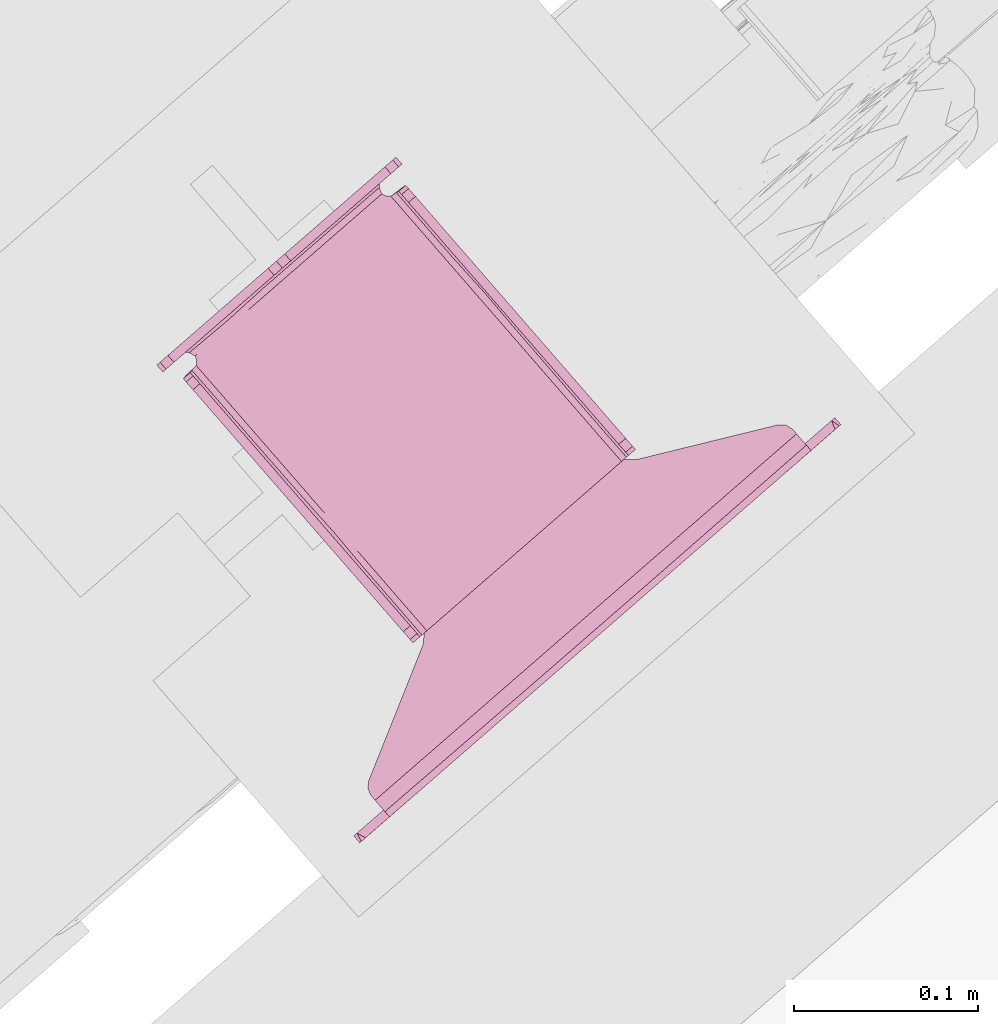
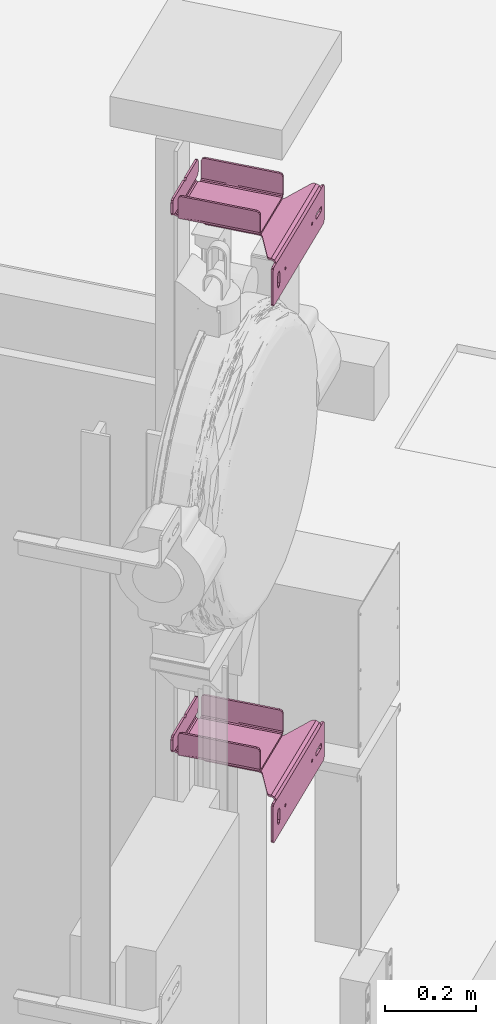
# One storey, part 116 of 124: 2 transport elements.
"""IFC2X3 building model written with IfcOpenShell, lengths in millimetres."""

from ifc_helpers import new_model, entity, si_unit, converted_unit, derived_unit, money_unit, direction, frame, origin_with_axes, place, context, subcontext, project, spatial, faceted_brep, source, transform, mapped, type_object, element, save


model = new_model("IFC2X3")

# Units and contexts
model_context = context("Model", 3, precision=1e-05, world=origin_with_axes(), true_north=direction((0.0, 1.0)))
body_context = subcontext(model_context, "Body", "Model", "MODEL_VIEW")
ifc_project = project(units=[si_unit("LENGTHUNIT", "METRE", prefix="MILLI"), si_unit("AREAUNIT", "SQUARE_METRE"), si_unit("VOLUMEUNIT", "CUBIC_METRE"), converted_unit("PLANEANGLEUNIT", "DEGREE", entity("IfcPlaneAngleMeasure", 0.0174532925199), si_unit("PLANEANGLEUNIT", "RADIAN"), dimensions=[0, 0, 0, 0, 0, 0, 0]), si_unit("SOLIDANGLEUNIT", "STERADIAN"), money_unit("EUR"), converted_unit("TIMEUNIT", "Year", entity("IfcTimeMeasure", 31556926.0), si_unit("TIMEUNIT", "SECOND"), dimensions=[0, 0, 1, 0, 0, 0, 0]), si_unit("MASSUNIT", "GRAM", prefix="KILO"), si_unit("THERMODYNAMICTEMPERATUREUNIT", "DEGREE_CELSIUS"), si_unit("LUMINOUSINTENSITYUNIT", "LUMEN"), si_unit("ENERGYUNIT", "JOULE", prefix="MEGA"), derived_unit("THERMALCONDUCTANCEUNIT", [(si_unit("POWERUNIT", "WATT"), 1), (si_unit("LENGTHUNIT", "METRE"), -1), (si_unit("THERMODYNAMICTEMPERATUREUNIT", "KELVIN"), -1)]), derived_unit("SPECIFICHEATCAPACITYUNIT", [(si_unit("ENERGYUNIT", "JOULE"), 1), (si_unit("MASSUNIT", "GRAM", prefix="KILO"), -1), (si_unit("THERMODYNAMICTEMPERATUREUNIT", "KELVIN"), -1)]), derived_unit("MASSDENSITYUNIT", [(si_unit("MASSUNIT", "GRAM", prefix="KILO"), 1), (si_unit("VOLUMEUNIT", "CUBIC_METRE"), -1)])], contexts=[model_context])

# Site, building, storey
site_placement = place(None, origin_with_axes())
site = spatial("IfcSite", under=ifc_project, at=site_placement, Name="Site", CompositionType="ELEMENT")
building_placement = place(site_placement, origin_with_axes())
building = spatial("IfcBuilding", under=site, at=building_placement, Name="Building", CompositionType="ELEMENT")
storey_placement = place(building_placement, frame((0.0, 0.0, -1615.0), z_axis=(0.0, 0.0, 1.0), x_axis=(1.0, 0.0, 0.0)))
storey = spatial("IfcBuildingStorey", under=building, at=storey_placement, Name="0  korrus", CompositionType="ELEMENT", Elevation=-1615.0)

# Transport elements
transport_element_type_1 = type_object("IfcTransportElementType", Name="KONE_Combination_Bracket_KM927051G01_L205-370_LH:KONE_Combination_Bracket_KM927051G01_L205-370_LH", PredefinedType="NOTDEFINED")
shared_shape = source(origin_with_axes(), body_context, "Body", "Brep", [
    faceted_brep([(226.391689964, 263.0, 124.081378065), (226.391689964, 268.0, 124.081378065), (232.048544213, 268.0, 126.424523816), (232.048544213, 263.0, 126.424523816), (221.391689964, 263.0, 124.081378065), (221.391689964, 268.0, 124.081378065), (70.3916899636, 268.0, 124.081378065), (64.7348357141, 268.0, 126.424523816), (62.3916899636, 268.0, 132.081378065), (62.3916899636, 268.0, 160.081378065), (64.7348357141, 268.0, 165.738232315), (70.3916899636, 268.0, 168.081378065), (142.391689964, 268.0, 168.081378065), (148.391689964, 268.0, 162.081378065), (154.391689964, 268.0, 168.081378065), (226.391689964, 268.0, 168.081378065), (232.048544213, 268.0, 165.738232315), (234.391689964, 268.0, 160.081378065), (234.391689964, 268.0, 132.081378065), (219.659639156, 268.0, 123.825940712), (218.075065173, 268.0, 123.081378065), (162.866367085, 268.0, 123.081378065), (78.708314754, 268.0, 123.081378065), (77.1237407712, 268.0, 123.825940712), (75.3916899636, 268.0, 124.081378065), (234.391689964, 263.0, 132.081378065), (148.391689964, 263.0, 162.081378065), (142.391689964, 263.0, 168.081378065), (70.3916899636, 263.0, 168.081378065), (64.7348357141, 263.0, 165.738232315), (62.3916899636, 263.0, 160.081378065), (62.3916899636, 263.0, 132.081378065), (64.7348357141, 263.0, 126.424523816), (70.3916899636, 263.0, 124.081378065), (75.3916899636, 263.0, 124.081378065), (77.1237407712, 263.0, 123.825940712), (78.708314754, 263.0, 123.081378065), (117.746759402, 263.0, 123.081378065), (148.391689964, 263.0, 123.081378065), (179.036620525, 263.0, 123.081378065), (218.075065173, 263.0, 123.081378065), (219.659639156, 263.0, 123.825940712), (234.391689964, 263.0, 160.081378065), (232.048544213, 263.0, 165.738232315), (226.391689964, 263.0, 168.081378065), (154.391689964, 263.0, 168.081378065), (218.075065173, 264.422858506, 123.081378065), (218.075065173, 265.845717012, 123.081378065), (217.703937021, 267.749594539, 120.85755111), (79.0797029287, 267.749226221, 120.855936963), (78.708314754, 265.84568573, 123.081378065), (78.708314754, 264.422842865, 123.081378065), (106.600087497, 261.039236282, 119.111108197), (133.069221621, 261.599756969, 119.611255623), (167.910915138, 261.580662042, 119.591555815), (216.775423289, 261.535848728, 119.546159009), (216.955931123, 262.880428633, 119.164874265), (217.460292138, 264.642341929, 120.493695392), (217.367560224, 265.729464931, 119.559537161), (217.332566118, 267.010189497, 118.743580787), (79.2653304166, 266.244760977, 120.196452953), (79.4510926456, 267.00948187, 118.742111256), (79.3408235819, 264.89248632, 120.310720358), (79.6161585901, 263.338368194, 119.818731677), (80.0079137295, 261.535803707, 119.546113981), (158.723504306, 264.856323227, 115.801897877), (120.346214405, 258.0, 118.081378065), (80.747765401, 259.523295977, 118.712416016), (81.3077697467, 258.0, 118.081378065), (159.384659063, 258.0, 118.081378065), (176.437165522, 258.0, 118.081378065), (216.221761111, 260.849109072, 117.19656657), (216.77268185, 263.303970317, 117.760754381), (216.961157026, 265.818917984, 116.847236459), (79.8224825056, 265.817871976, 116.845924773), (80.0080506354, 263.312263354, 117.769046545), (80.3778398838, 261.333528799, 117.787138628), (81.3077697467, 258.0, 116.6585352), (215.475610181, 258.0, 118.081378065), (216.035614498, 259.523365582, 118.712456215), (216.589738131, 264.235458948, 115.2635106), (80.1938735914, 264.234158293, 115.262473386), (80.318762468, 255.575973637, 118.081378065), (78.3916899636, 253.803847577, 118.081378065), (78.3916899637, 214.765403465, 118.081378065), (78.3916899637, 175.726959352, 118.081378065), (78.3916899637, 147.545219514, 118.081378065), (78.3916899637, 119.363479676, 118.081378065), (78.3916899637, 102.038444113, 118.081378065), (78.3916899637, 63.0, 118.081378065), (218.391689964, 63.0, 118.081378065), (218.391689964, 102.038444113, 118.081378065), (218.391689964, 130.220183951, 118.081378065), (218.391689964, 158.401923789, 118.081378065), (218.391689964, 186.583663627, 118.081378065), (218.391689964, 214.765403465, 118.081378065), (218.391689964, 253.803847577, 118.081378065), (216.464617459, 255.575973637, 118.081378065), (81.3077697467, 258.0, 115.235692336), (81.3077697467, 258.0, 113.081378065), (80.318762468, 255.575973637, 113.081378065), (215.475610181, 258.0, 116.658519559), (215.475610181, 258.0, 115.235661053), (216.218390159, 262.339274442, 114.071899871), (80.5652646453, 262.337773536, 114.071177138), (78.3916899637, 253.803847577, 113.081378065), (78.3916899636, 253.803847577, 115.286270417), (78.3916899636, 253.803847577, 116.683824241), (74.9040391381, 224.325981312, 119.498600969), (74.912107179, 195.246183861, 119.490764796), (75.0247218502, 161.636091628, 119.384957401), (75.3733941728, 136.096414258, 119.095165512), (74.9234654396, 110.700959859, 119.479792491), (74.8561560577, 63.0, 119.545844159), (78.3916899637, 63.0, 115.581378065), (221.960404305, 92.278927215, 119.579338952), (221.994850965, 121.557663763, 119.61479029), (222.087500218, 155.067273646, 119.713739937), (222.389349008, 180.433874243, 120.078259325), (221.914531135, 205.50000201, 119.533196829), (221.92748804, 253.401866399, 119.54610835), (219.950700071, 253.626605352, 118.727209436), (218.391689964, 253.803847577, 116.683823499), (218.391689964, 253.803847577, 115.286268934), (218.391689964, 253.803847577, 113.081378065), (216.464617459, 255.575973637, 113.081378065), (215.475610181, 258.0, 113.081378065), (80.9366545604, 260.223829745, 113.331784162), (218.391689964, 198.595149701, 113.081378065), (218.391689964, 143.386451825, 113.081378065), (218.391689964, 63.0, 113.081378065), (78.3916899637, 63.0, 113.081378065), (78.3916899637, 143.386451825, 113.081378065), (78.3916899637, 198.595149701, 113.081378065), (136.51646853, 258.0, 113.081378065), (215.847005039, 260.225429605, 113.33214922), (76.1662538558, 253.688998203, 113.332150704), (75.5474605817, 253.573928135, 117.182621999), (76.8325408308, 253.626605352, 118.727284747), (74.855823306, 253.401894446, 119.546176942), (218.391689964, 63.0, 115.581378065), (221.92722387, 63.0, 119.545844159), (222.322349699, 253.456351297, 118.2110199), (221.004082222, 253.61189367, 116.446378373), (221.874411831, 253.587493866, 115.340416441), (220.615484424, 253.689082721, 113.331776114), (225.482173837, 170.186956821, 116.029779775), (226.238372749, 116.578488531, 116.882219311), (72.2295784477, 116.60942872, 115.20556816), (71.3012060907, 170.186956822, 116.029779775), (74.0524048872, 253.574151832, 114.071904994), (73.0861150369, 253.402741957, 117.759203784), (73.3916899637, 213.961555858, 123.081378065), (73.3916899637, 253.0, 123.081378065), (73.3916899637, 185.980777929, 123.081378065), (73.3916899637, 158.0, 123.081378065), (73.3916899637, 134.25, 123.081378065), (73.3916899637, 110.5, 123.081378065), (71.3206221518, 63.0, 116.010310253), (223.391689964, 102.038444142, 123.081378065), (223.391689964, 63.0, 123.081378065), (223.391689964, 141.076888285, 123.081378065), (223.391689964, 169.057666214, 123.081378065), (223.391689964, 197.038444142, 123.081378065), (223.391689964, 213.961555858, 123.081378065), (224.290495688, 253.229916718, 120.237161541), (222.72945989, 253.574240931, 114.0711754), (224.625814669, 253.459387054, 115.262446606), (225.462757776, 63.0, 116.010310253), (72.1562222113, 253.459317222, 115.263517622), (73.5212229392, 253.347488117, 119.150753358), (73.3916899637, 63.0, 123.081378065), (68.3916899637, 63.0, 123.081378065), (228.391689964, 63.0, 123.081378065), (223.391689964, 253.0, 123.081378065), (222.745907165, 253.177242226, 121.522155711), (223.713889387, 253.40110386, 117.775807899), (226.209550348, 253.344530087, 116.845910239), (228.391689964, 142.582604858, 123.081378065), (68.3916899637, 142.582604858, 123.081378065), (70.5727586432, 253.344460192, 116.847253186), (71.7566759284, 253.191952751, 120.468993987), (73.3916899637, 253.0, 170.081378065), (73.3916899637, 250.656854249, 175.738232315), (73.3916899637, 245.0, 178.081378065), (73.3916899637, 71.0, 178.081378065), (73.3916899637, 65.3431457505, 175.738232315), (73.3916899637, 63.0, 170.081378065), (71.9941361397, 253.0, 123.081378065), (223.391689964, 71.0, 178.081378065), (223.391689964, 245.0, 178.081378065), (223.391689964, 250.65685425, 175.738232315), (223.391689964, 253.0, 170.081378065), (223.391689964, 63.0, 170.081378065), (223.391689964, 65.3431457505, 175.738232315), (228.391689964, 63.0, 170.081378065), (224.789244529, 253.0, 123.081378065), (226.186799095, 253.0, 123.081378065), (228.391689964, 197.791302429, 123.081378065), (68.3916899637, 197.791302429, 123.081378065), (70.6507336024, 253.216353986, 119.598648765), (68.3916899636, 253.0, 123.081378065), (68.3916899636, 253.0, 170.081378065), (70.5965823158, 253.0, 123.081378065), (68.3916899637, 250.656854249, 175.738232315), (68.3916899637, 245.0, 178.081378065), (68.3916899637, 71.0, 178.081378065), (68.3916899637, 65.3431457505, 175.738232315), (68.3916899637, 63.0, 170.081378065), (228.391689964, 71.0, 178.081378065), (228.391689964, 245.0, 178.081378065), (228.391689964, 250.65685425, 175.738232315), (228.391689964, 253.0, 170.081378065), (228.391689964, 253.0, 123.081378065), (228.391689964, 65.3431457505, 175.738232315), (227.401163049, 253.22969561, 118.742093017), (69.381487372, 253.229606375, 118.743607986), (228.140917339, 253.114849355, 120.855942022), (68.642087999, 253.114764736, 120.857583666)], [[[0, 1, 2, 3]], [[1, 0, 4, 5]], [[6, 7, 8, 9, 10, 11, 12, 13, 14, 15, 16, 17, 18, 2, 1, 5, 19, 20, 21, 22, 23, 24]], [[2, 18, 25, 3]], [[26, 27, 28, 29, 30, 31, 32, 33, 34, 35, 36, 37, 38, 39, 40, 41, 4, 0, 3, 25, 42, 43, 44, 45]], [[4, 41, 19, 5]], [[7, 6, 33, 32]], [[31, 8, 7, 32]], [[31, 30, 9, 8]], [[10, 9, 30, 29]], [[28, 11, 10, 29]], [[11, 28, 27, 12]], [[27, 26, 13, 12]], [[26, 45, 14, 13]], [[14, 45, 44, 15]], [[16, 15, 44, 43]], [[42, 17, 16, 43]], [[17, 42, 25, 18]], [[41, 40, 46, 47, 20, 19]], [[21, 20, 48]], [[49, 22, 21]], [[23, 22, 50, 51, 36, 35]], [[34, 24, 23, 35]], [[24, 34, 33, 6]], [[52, 37, 36]], [[53, 38, 37]], [[54, 39, 38]], [[39, 55, 40]], [[46, 40, 56]], [[46, 57, 47]], [[20, 47, 58]], [[48, 20, 58]], [[21, 48, 59]], [[49, 60, 22]], [[49, 21, 61]], [[22, 60, 50]], [[51, 50, 62]], [[51, 63, 36]], [[37, 52, 53]], [[36, 64, 52]], [[38, 53, 54]], [[55, 39, 54]], [[55, 56, 40]], [[56, 57, 46]], [[47, 57, 58]], [[48, 58, 59]], [[59, 65, 21]], [[60, 49, 61]], [[61, 21, 65]], [[50, 60, 62]], [[63, 51, 62]], [[64, 36, 63]], [[66, 53, 52]], [[52, 64, 67, 68]], [[53, 69, 54]], [[55, 54, 70]], [[71, 56, 55]], [[72, 57, 56]], [[58, 57, 72]], [[73, 59, 58]], [[59, 73, 65]], [[60, 61, 74]], [[65, 74, 61]], [[60, 75, 62]], [[75, 63, 62]], [[63, 76, 64]], [[66, 69, 53]], [[66, 52, 68]], [[76, 67, 64]], [[77, 68, 67]], [[70, 54, 69]], [[70, 78, 79, 55]], [[71, 72, 56]], [[55, 79, 71]], [[58, 72, 80]], [[80, 73, 58]], [[65, 73, 80]], [[75, 60, 74]], [[65, 81, 74]], [[76, 63, 75]], [[82, 83, 84, 85, 86, 87, 88, 89, 90, 91, 92, 93, 94, 95, 96, 97, 78, 70, 69, 66, 68]], [[67, 76, 77]], [[82, 68, 77, 98, 99, 100]], [[101, 79, 78]], [[102, 72, 71]], [[79, 101, 71]], [[103, 80, 72]], [[103, 65, 80]], [[75, 74, 81]], [[65, 104, 81]], [[76, 75, 98]], [[100, 105, 106, 107, 83, 82]], [[108, 84, 83]], [[109, 85, 84]], [[86, 85, 110]], [[86, 111, 87]], [[87, 112, 88]], [[113, 89, 88]], [[90, 89, 114]], [[115, 91, 90]], [[92, 91, 116]], [[117, 93, 92]], [[94, 93, 118]], [[119, 95, 94]], [[95, 120, 121, 96]], [[97, 96, 122, 123, 124, 125]], [[125, 126, 102, 101, 78, 97]], [[98, 77, 76]], [[127, 99, 98]], [[124, 128, 129, 130, 131, 132, 133, 105, 100, 99, 134, 126, 125]], [[72, 102, 103]], [[102, 71, 101]], [[135, 65, 103]], [[75, 81, 104]], [[134, 104, 65]], [[75, 104, 98]], [[105, 136, 106]], [[106, 137, 107]], [[107, 138, 83]], [[108, 109, 84]], [[108, 83, 138, 139]], [[110, 85, 109]], [[86, 110, 111]], [[87, 111, 112]], [[88, 112, 113]], [[113, 114, 89]], [[90, 114, 140]], [[115, 116, 91]], [[141, 115, 90]], [[117, 92, 116]], [[93, 117, 118]], [[118, 119, 94]], [[119, 120, 95]], [[120, 142, 121]], [[122, 96, 121]], [[143, 123, 122]], [[124, 123, 144]], [[135, 102, 126]], [[127, 134, 99]], [[98, 104, 127]], [[124, 145, 128]], [[128, 146, 129]], [[147, 130, 129]], [[130, 114, 131]], [[131, 148, 132]], [[149, 133, 132]], [[136, 105, 133]], [[126, 134, 135]], [[103, 102, 135]], [[134, 65, 135]], [[134, 127, 104]], [[150, 106, 136]], [[106, 151, 137]], [[138, 107, 137]], [[109, 108, 152]], [[139, 138, 137]], [[108, 139, 153]], [[109, 154, 110]], [[110, 155, 111]], [[112, 111, 156]], [[157, 113, 112]], [[114, 113, 158]], [[114, 130, 140]], [[140, 141, 90]], [[116, 115, 159]], [[115, 141, 160]], [[116, 161, 117]], [[118, 117, 162]], [[119, 118, 163]], [[120, 119, 164]], [[165, 142, 120]], [[121, 142, 143]], [[143, 122, 121]], [[123, 143, 144]], [[124, 144, 145]], [[166, 128, 145]], [[167, 146, 128]], [[129, 146, 147]], [[147, 168, 130]], [[131, 114, 158]], [[131, 158, 148]], [[148, 149, 132]], [[133, 149, 169]], [[136, 133, 150]], [[150, 151, 106]], [[170, 137, 151]], [[108, 153, 152]], [[109, 152, 154]], [[137, 170, 139]], [[170, 153, 139]], [[155, 110, 154]], [[156, 111, 155]], [[156, 157, 112]], [[171, 113, 157]], [[113, 172, 158]], [[140, 130, 168]], [[141, 140, 168]], [[115, 160, 159]], [[116, 159, 161]], [[173, 160, 141]], [[162, 117, 161]], [[163, 118, 162]], [[119, 163, 164]], [[164, 174, 175, 120]], [[142, 165, 176]], [[120, 175, 165]], [[142, 176, 143]], [[144, 143, 176]], [[145, 144, 166]], [[128, 166, 167]], [[167, 177, 146]], [[147, 146, 178]], [[147, 173, 168]], [[148, 158, 172]], [[148, 179, 149]], [[149, 180, 169]], [[133, 169, 150]], [[169, 151, 150]], [[151, 181, 170]], [[171, 157, 156, 155, 154, 152, 153, 182, 183, 184, 185, 186, 187]], [[170, 188, 153]], [[172, 113, 171]], [[173, 141, 168]], [[189, 190, 191, 192, 174, 164, 163, 162, 161, 159, 160, 193, 194]], [[173, 195, 160]], [[196, 175, 174]], [[197, 176, 165]], [[175, 196, 165]], [[144, 176, 177]], [[167, 166, 144]], [[167, 144, 177]], [[177, 198, 146]], [[198, 178, 146]], [[173, 147, 178]], [[172, 179, 148]], [[199, 149, 179]], [[149, 199, 180]], [[180, 200, 169]], [[200, 151, 169]], [[200, 181, 151]], [[188, 170, 181]], [[201, 202, 182, 153, 188, 203]], [[202, 204, 183, 182]], [[183, 204, 205, 184]], [[205, 206, 185, 184]], [[206, 207, 186, 185]], [[186, 207, 208, 187]], [[171, 187, 208]], [[208, 172, 171]], [[190, 189, 209, 210]], [[210, 211, 191, 190]], [[191, 211, 212, 192]], [[212, 213, 197, 196, 174, 192]], [[193, 160, 195]], [[195, 214, 194, 193]], [[194, 214, 209, 189]], [[209, 214, 195, 173, 178, 198, 213, 212, 211, 210]], [[215, 176, 197]], [[197, 165, 196]], [[177, 176, 215]], [[215, 198, 177]], [[206, 205, 204, 202, 201, 199, 179, 172, 208, 207]], [[199, 216, 180]], [[180, 216, 200]], [[203, 181, 200]], [[181, 203, 188]], [[201, 203, 200]], [[213, 217, 197]], [[217, 213, 198]], [[215, 197, 217]], [[198, 215, 217]], [[218, 199, 201]], [[216, 199, 218]], [[218, 200, 216]], [[201, 200, 218]]]),
    faceted_brep([(58.3916899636, 2.5, 43.0813780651), (58.3916899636, 0.0, 43.0813780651), (63.3916899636, 0.0, 48.0813780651), (63.3916899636, 5.0, 48.0813780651), (58.3916899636, 5.0, 43.0813780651), (53.3916899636, 5.0, 48.0813780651), (53.3916899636, 0.0, 48.0813780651), (233.391689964, 0.0, 48.0813780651), (58.3916899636, 0.0, 53.0813780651), (58.3916899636, 2.5, 53.0813780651), (58.3916899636, 5.0, 53.0813780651), (238.391689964, 5.0, 43.0813780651), (20.3916899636, 5.0, 34.0813780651), (20.3916899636, 0.0, 34.0813780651), (238.391689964, 0.0, 43.0813780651), (238.391689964, 5.0, 53.0813780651), (233.391689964, 5.0, 48.0813780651), (313.391689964, 5.0, -1.91862193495), (16.8916899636, 5.0, 28.0192002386), (20.3916899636, 5.0, 62.081378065), (20.3916899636, 0.0, 62.081378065), (16.8916899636, 0.0, 28.0192002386), (-16.6083100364, 0.0, -1.91862193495), (238.391689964, 2.5, 43.0813780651), (238.391689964, 0.0, 53.0813780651), (299.991689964, 5.0, 102.081378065), (269.391689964, 5.0, 41.0813780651), (-16.6083100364, 5.0, -1.91862193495), (16.8916899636, 5.0, 68.1435558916), (16.8916899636, 0.0, 68.1435558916), (313.391689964, 0.0, -1.91862193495), (243.391689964, 0.0, 48.0813780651), (243.391689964, 5.0, 48.0813780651), (238.391689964, 2.5, 53.0813780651), (-20.4812933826, 0.0, 101.081378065), (257.227217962, 5.0, 102.081378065), (269.391689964, 5.0, 55.0813780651), (263.329512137, 5.0, 44.581378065), (297.391689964, 5.0, 41.0813780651), (9.89168996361, 0.0, 28.0192002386), (9.89168996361, 5.0, 28.0192002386), (-3.20831003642, 5.0, 102.081378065), (269.391689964, 0.0, 41.0813780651), (263.329512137, 0.0, 44.581378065), (-9.92673209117, 0.0, 101.081378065), (214.46274596, 5.0, 102.081378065), (299.991689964, 6.75735931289, 106.324018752), (240.709455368, 6.75735931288, 106.324018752), (263.329512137, 5.0, 51.5813780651), (297.391689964, 5.0, 55.0813780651), (321.391689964, 5.0, 6.08137806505), (297.391689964, 0.0, 41.0813780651), (319.048544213, 5.0, 0.42452381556), (319.048544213, 0.0, 0.42452381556), (-22.2651642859, 5.0, 0.42452381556), (-22.2651642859, 0.0, 0.42452381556), (6.39168996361, 0.0, 34.0813780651), (6.39168996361, 5.0, 34.0813780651), (-24.6083100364, 5.0, 6.08137806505), (9.89168996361, 0.0, 68.1435558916), (9.89168996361, 5.0, 68.1435558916), (39.5561619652, 5.0, 102.081378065), (-24.6083100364, 0.0, 6.08137806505), (263.329512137, 0.0, 51.5813780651), (0.62782920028, 0.0, 101.081378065), (-18.6080463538, 0.02321277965, 101.827412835), (167.84957759, 5.0, 102.081378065), (299.991689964, 11.0, 108.081378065), (299.991689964, 15.1311773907, 108.081378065), (299.991689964, 15.1311773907, 113.081378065), (299.991689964, 12.0, 113.081378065), (299.991689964, 3.87596159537, 109.913138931), (299.991689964, 0.0417392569, 102.081378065), (203.889808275, 6.9065029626, 106.468094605), (224.191690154, 11.0, 108.081378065), (257.22721836, 11.0, 108.081378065), (269.391689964, 0.0, 55.0813780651), (297.391689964, 0.0, 55.0813780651), (321.391689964, 5.0, 94.0813780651), (303.45386779, 5.0, 44.581378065), (303.45386779, 0.0, 44.581378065), (321.391689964, 0.0, 6.08137806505), (6.39168996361, 5.0, 62.081378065), (6.39168996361, 0.0, 62.081378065), (-24.6083100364, 5.0, 94.0813780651), (28.8650501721, 7.07950810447, 106.623375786), (82.3206339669, 5.0, 102.081378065), (-24.6083100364, 0.0, 94.0813780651), (21.7369517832, 0.0, 101.081378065), (-3.20831003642, 0.0417392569, 102.081378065), (-16.6083100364, 0.0417392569, 102.081378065), (-22.2651642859, 5.0, 99.7382323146), (125.085105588, 5.0, 102.081378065), (186.291689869, 11.0, 108.081378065), (148.391689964, 11.0, 108.081378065), (115.356162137, 11.0, 108.081378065), (82.320633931, 11.0, 108.081378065), (39.5561619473, 11.0, 108.081378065), (-3.20831003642, 11.0, 108.081378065), (-3.20831003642, 15.1311773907, 108.081378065), (-2.03775935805, 19.2975453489, 108.081378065), (1.1313454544, 22.2446770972, 108.081378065), (71.8822067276, 58.6504600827, 108.081378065), (76.6358639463, 63.0711577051, 108.081378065), (78.3916899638, 69.3207096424, 108.081378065), (78.3916899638, 192.0, 108.081378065), (80.7348357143, 197.656854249, 108.081378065), (86.3916899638, 200.0, 108.081378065), (210.391689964, 200.0, 108.081378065), (216.048544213, 197.656854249, 108.081378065), (218.391689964, 192.0, 108.081378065), (218.391689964, 69.3207096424, 108.081378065), (220.147515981, 63.0711577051, 108.081378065), (224.9011732, 58.6504600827, 108.081378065), (295.652034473, 22.2446770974, 108.081378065), (298.821139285, 19.297545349, 108.081378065), (298.821139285, 19.297545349, 113.081378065), (-3.20831003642, 15.1311773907, 113.081378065), (-3.20831003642, 12.0, 113.081378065), (57.2697867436, 12.0, 113.081378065), (148.391690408, 12.0, 113.081378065), (239.513593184, 12.0, 113.081378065), (295.652034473, 22.2446770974, 113.081378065), (224.9011732, 58.6504600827, 113.081378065), (220.147515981, 63.0711577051, 113.081378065), (218.391689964, 69.3207096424, 113.081378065), (218.391689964, 192.0, 113.081378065), (216.048544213, 197.656854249, 113.081378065), (210.391689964, 200.0, 113.081378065), (86.3916899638, 200.0, 113.081378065), (80.7348357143, 197.656854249, 113.081378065), (78.3916899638, 192.0, 113.081378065), (78.3916899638, 69.3207096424, 113.081378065), (76.6358639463, 63.0711577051, 113.081378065), (71.8822067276, 58.6504600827, 113.081378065), (1.1313454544, 22.2446770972, 113.081378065), (-2.03775935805, 19.2975453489, 113.081378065), (275.046427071, 0.0, 101.081378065), (313.391689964, 0.0417392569, 102.081378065), (313.391689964, 5.0, 102.081378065), (317.26467331, 0.0, 101.081378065), (303.45386779, 0.0, 51.5813780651), (303.45386779, 5.0, 51.5813780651), (321.391689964, 0.0, 94.0813780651), (-16.6083100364, 5.0, 102.081378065), (60.9384018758, 6.75735931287, 106.324018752), (-3.20831003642, 6.75735931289, 106.324018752), (-23.4997491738, 0.0, 98.1443900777), (63.9551980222, 0.0, 101.081378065), (-3.20831003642, 3.87596159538, 109.913138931), (131.407601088, 6.94541120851, 106.504081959), (167.341692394, 7.03140000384, 106.581401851), (96.2257561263, 6.651377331, 106.2153206), (106.17345035, 3.51471859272, 109.566659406), (190.609939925, 3.51471863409, 109.566659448), (232.828181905, 0.0, 101.081378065), (296.155549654, 0.0, 101.081378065), (306.710112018, 0.0, 101.081378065), (315.39199539, 0.02320362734, 101.82726589), (319.048544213, 5.0, 99.7382323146), (320.283129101, 0.0, 98.1443900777), (148.391689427, 0.0, 101.081378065)], [[[0, 1, 2, 3, 4]], [[0, 4, 5, 6, 1]], [[2, 1, 7]], [[3, 2, 8, 9, 10]], [[3, 11, 4]], [[4, 12, 5]], [[5, 10, 9, 8, 6]], [[1, 6, 13]], [[7, 1, 14]], [[8, 2, 7]], [[10, 15, 3]], [[16, 11, 3]], [[11, 17, 4]], [[18, 12, 4]], [[19, 5, 12]], [[5, 19, 10]], [[6, 8, 20]], [[20, 13, 6]], [[13, 21, 1]], [[1, 22, 14]], [[23, 11, 16, 7, 14]], [[7, 24, 8]], [[15, 10, 25]], [[15, 16, 3]], [[11, 26, 17]], [[27, 4, 17]], [[21, 13, 12, 18]], [[18, 4, 27]], [[13, 20, 19, 12]], [[10, 19, 28]], [[29, 20, 8]], [[1, 21, 22]], [[30, 14, 22]], [[23, 14, 31, 32, 11]], [[16, 15, 33, 24, 7]], [[8, 24, 34]], [[10, 35, 25]], [[36, 15, 25]], [[11, 37, 26]], [[38, 17, 26]], [[17, 30, 22, 27]], [[39, 21, 18, 40]], [[40, 18, 27]], [[20, 29, 28, 19]], [[28, 41, 10]], [[29, 8, 34]], [[39, 22, 21]], [[42, 14, 30]], [[43, 31, 14]], [[32, 31, 24, 33, 15]], [[37, 11, 32]], [[24, 44, 34]], [[10, 45, 35]], [[46, 25, 35, 45, 47]], [[48, 15, 36]], [[49, 36, 25]], [[43, 42, 26, 37]], [[50, 17, 38]], [[26, 42, 51, 38]], [[17, 52, 53, 30]], [[54, 27, 22, 55]], [[56, 39, 40, 57]], [[27, 58, 40]], [[29, 59, 60, 28]], [[28, 60, 41]], [[10, 41, 61]], [[34, 59, 29]], [[62, 22, 39]], [[42, 43, 14]], [[51, 42, 30]], [[63, 31, 43]], [[31, 63, 24]], [[15, 48, 32]], [[48, 37, 32]], [[24, 64, 44]], [[44, 65, 34]], [[10, 66, 45]], [[46, 67, 68, 69, 70, 71, 72, 25]], [[73, 47, 45]], [[46, 47, 74, 75, 67]], [[76, 63, 48, 36]], [[77, 76, 36, 49]], [[78, 49, 25]], [[63, 43, 37, 48]], [[17, 50, 52]], [[38, 79, 50]], [[51, 80, 79, 38]], [[53, 52, 50, 81]], [[30, 53, 81]], [[58, 27, 54]], [[22, 62, 55]], [[62, 58, 54, 55]], [[39, 56, 62]], [[57, 40, 58]], [[82, 83, 56, 57]], [[59, 83, 82, 60]], [[41, 60, 84]], [[85, 61, 41]], [[10, 61, 86]], [[87, 59, 34]], [[30, 81, 51]], [[24, 63, 76]], [[24, 88, 64]], [[44, 64, 88, 89, 90]], [[65, 44, 90]], [[91, 34, 65]], [[10, 92, 66]], [[45, 66, 73]], [[68, 67, 75, 74, 93, 94, 95, 96, 97, 98, 99, 100, 101, 102, 103, 104, 105, 106, 107, 108, 109, 110, 111, 112, 113, 114, 115]], [[69, 68, 115, 116]], [[117, 118, 119, 120, 121, 70, 69, 116, 122, 123, 124, 125, 126, 127, 128, 129, 130, 131, 132, 133, 134, 135, 136]], [[71, 70, 121]], [[71, 137, 72]], [[25, 72, 138, 139]], [[47, 73, 74]], [[76, 77, 140]], [[141, 77, 49, 142]], [[78, 142, 49]], [[25, 139, 78]], [[79, 142, 50]], [[81, 80, 51]], [[80, 141, 142, 79]], [[78, 143, 81, 50]], [[58, 62, 87, 84]], [[56, 83, 62]], [[57, 58, 82]], [[59, 87, 83]], [[60, 82, 84]], [[144, 41, 84]], [[61, 85, 145]], [[41, 146, 85]], [[86, 61, 145]], [[10, 86, 92]], [[34, 147, 87]], [[76, 140, 24]], [[24, 148, 88]], [[149, 89, 88]], [[90, 89, 41, 144]], [[90, 144, 65]], [[91, 147, 34]], [[65, 144, 91]], [[92, 150, 66]], [[151, 73, 66]], [[73, 93, 74]], [[93, 151, 94]], [[95, 94, 150]], [[96, 95, 152]], [[97, 96, 145]], [[97, 85, 98]], [[98, 146, 41, 89, 149, 118, 117, 99]], [[100, 99, 117, 136]], [[135, 101, 100, 136]], [[135, 134, 102, 101]], [[134, 133, 103, 102]], [[132, 104, 103, 133]], [[104, 132, 131, 105]], [[106, 105, 131, 130]], [[129, 107, 106, 130]], [[107, 129, 128, 108]], [[109, 108, 128, 127]], [[126, 110, 109, 127]], [[125, 111, 110, 126]], [[125, 124, 112, 111]], [[123, 113, 112, 124]], [[123, 122, 114, 113]], [[115, 114, 122, 116]], [[119, 118, 149]], [[153, 154, 120, 119]], [[121, 120, 154]], [[71, 121, 154]], [[155, 137, 71]], [[72, 137, 156, 157, 138]], [[139, 138, 158]], [[143, 140, 77]], [[77, 141, 143]], [[142, 78, 50]], [[78, 139, 159]], [[80, 81, 141]], [[160, 143, 78]], [[143, 141, 81]], [[83, 87, 62]], [[87, 147, 84]], [[84, 82, 58]], [[84, 91, 144]], [[85, 97, 145]], [[85, 146, 98]], [[86, 145, 152]], [[86, 152, 92]], [[24, 140, 157]], [[24, 161, 148]], [[88, 148, 149]], [[91, 84, 147]], [[150, 92, 152]], [[151, 66, 150]], [[93, 73, 151]], [[94, 151, 150]], [[95, 150, 152]], [[152, 145, 96]], [[153, 119, 149]], [[154, 153, 161]], [[71, 154, 155]], [[24, 137, 155]], [[24, 156, 137]], [[24, 157, 156]], [[157, 158, 138]], [[158, 159, 139]], [[160, 140, 143]], [[78, 159, 160]], [[140, 158, 157]], [[24, 155, 161]], [[153, 148, 161]], [[153, 149, 148]], [[161, 155, 154]], [[140, 159, 158]], [[159, 140, 160]]]),
])
transport_element_1_placement = place(storey_placement, frame((147635.383855, 77634.7936288, 8471.91893938), z_axis=(0.0, 0.0, 1.0), x_axis=(0.754709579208, 0.656059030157, 0.0)))
element("IfcTransportElement", 1, at=transport_element_1_placement, inside=storey, type_object=transport_element_type_1, Name="KONE_Combination_Bracket_KM927051G01_L205-370_LH:KONE_Combination_Bracket_KM927051G01_L205-370_LH", ObjectType="KONE_Combination_Bracket_KM927051G01_L205-370_LH", CapacityByNumber=0.0, CapacityByWeight=0.0, OperationType="ELEVATOR", context=body_context, shape_type="MappedRepresentation", body=[
    mapped(shared_shape, transform((0.0, 0.0, 0.0))),
])
transport_element_type_2 = type_object("IfcTransportElementType", Name="KONE_Combination_Bracket_KM927051G01_L205-370_LH:KONE_Combination_Bracket_KM927051G01_L205-370_LH", PredefinedType="NOTDEFINED")
transport_element_2_placement = place(storey_placement, frame((147635.383855, 77634.7936288, 9911.91898546), z_axis=(0.0, 0.0, 1.0), x_axis=(0.754709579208, 0.656059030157, 0.0)))
element("IfcTransportElement", 2, at=transport_element_2_placement, inside=storey, type_object=transport_element_type_2, Name="KONE_Combination_Bracket_KM927051G01_L205-370_LH:KONE_Combination_Bracket_KM927051G01_L205-370_LH", ObjectType="KONE_Combination_Bracket_KM927051G01_L205-370_LH", CapacityByNumber=0.0, CapacityByWeight=0.0, OperationType="ELEVATOR", context=body_context, shape_type="MappedRepresentation", body=[
    mapped(shared_shape, transform((0.0, 0.0, 0.0))),
])

save(model, "model.ifc")
